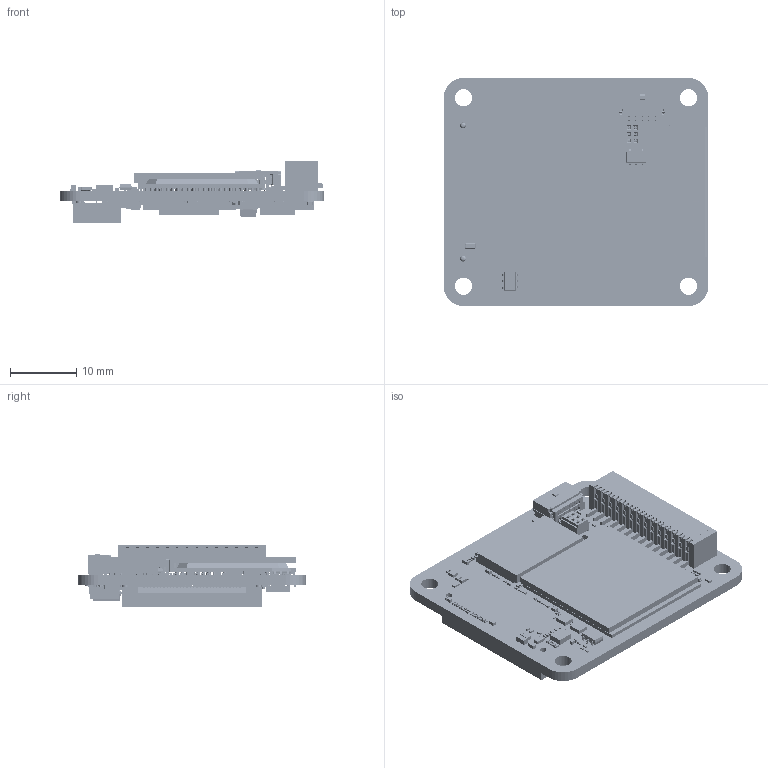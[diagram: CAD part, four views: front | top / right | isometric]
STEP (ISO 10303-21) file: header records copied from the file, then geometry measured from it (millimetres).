
FILE_DESCRIPTION(/* description */ ('VX1453 HSSL POD (Target Interface Voltage: 3.3V)'),/* implementation_level */ '2;1');
FILE_NAME(/* name */ 'C:\Users\TeamCenterSystem\Documents\Inventor\GRP_000159_CUST_iam.STP',/* time_stamp */ '2023-07-24T10:52:32+02:00',/* author */ ('vista'),/* organization */ (''),/* preprocessor_version */ 'ST-DEVELOPER v18.1',/* originating_system */ 'Autodesk Inventor 2022',/* authorisation */ '');
FILE_SCHEMA (('AUTOMOTIVE_DESIGN { 1 0 10303 214 3 1 1 }'));
Products named in the file (6): GRP_000159_CUST; GRP_000159; ASY_001085; MEC_000134; MEC_000137; LBL_000160
Assembly tree (5 placements, depth 3):
  GRP_000159_CUST
    GRP_000159
      ASY_001085
      MEC_000134
      MEC_000137
      LBL_000160
Bounding box: 40 x 34.5 x 9.35 mm (x, y, z)
Volume: 4359.6 mm3; surface area: 10692.9 mm2
Topology: 590 solids, 591 shells, 17669 faces, 44488 edges, 29148 vertices
Faces by surface type: plane 15070, cylinder 1997, bspline 532, sphere 70
Full cylindrical faces by diameter (mm): 0.125 x2, 0.15 x2, 0.2 x1, 0.25 x7, 0.31 x18, 0.4 x7, 0.45 x96, 0.5 x485, 0.75 x1, 0.8 x22, 0.9 x2, 1 x2, 2.6 x4
Entity records: 544895 total; most frequent: CARTESIAN_POINT 111303, ORIENTED_EDGE 88783, DIRECTION 82695, EDGE_CURVE 44392, LINE 38807, VECTOR 38807, VERTEX_POINT 29148, AXIS2_PLACEMENT_3D 21944
